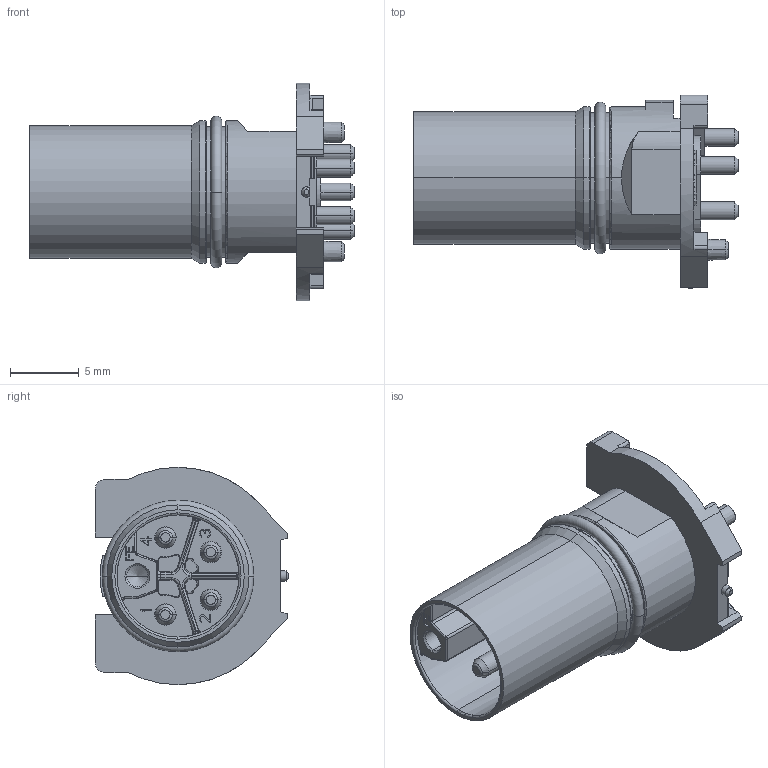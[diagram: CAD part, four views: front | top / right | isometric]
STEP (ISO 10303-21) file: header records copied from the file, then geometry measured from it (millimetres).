
FILE_DESCRIPTION((''),'2;1');
FILE_NAME('M12L-05PMEP-EE0001-IGS','2024-03-18T',('L230003'),(''),'PRO/ENGINEER BY PARAMETRIC TECHNOLOGY CORPORATION, 2017170','PRO/ENGINEER BY PARAMETRIC TECHNOLOGY CORPORATION, 2017170','');
FILE_SCHEMA(('CONFIG_CONTROL_DESIGN'));
Length unit declared in the file: millimetre
Products named in the file (1): M12L-05PMEP-EE0001-IGS
Bounding box: 23.5 x 14.03 x 15.75 mm (x, y, z)
Volume: 1270.3 mm3; surface area: 1934.4 mm2
Topology: 1 solids, 1 shells, 572 faces, 1585 edges, 1055 vertices
Faces by surface type: plane 309, cylinder 159, cone 40, bspline 29, torus 25, extrusion 10
Entity records: 24163 total; most frequent: CARTESIAN_POINT 5710, ORIENTED_EDGE 3166, DIRECTION 2922, EDGE_CURVE 1583, VERTEX_POINT 1055, AXIS2_PLACEMENT_3D 991, VECTOR 940, LINE 930
